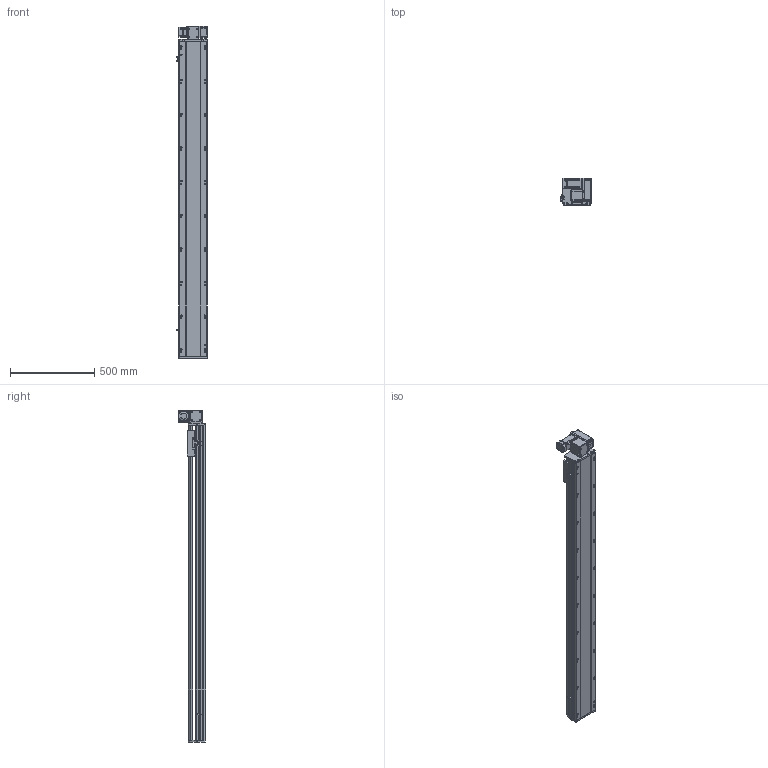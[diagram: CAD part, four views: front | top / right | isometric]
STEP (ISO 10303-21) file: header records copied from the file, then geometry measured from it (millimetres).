
FILE_DESCRIPTION (( 'STEP AP214' ), '1' );
FILE_NAME ('RTB17S-XX-1600-RW-M40-C4.STEP', '2025-12-11T09:04:30', ( '' ), ( '' ), 'SwSTEP 2.0', 'SolidWorks 2018', '' );
FILE_SCHEMA (( 'AUTOMOTIVE_DESIGN' ));
Length unit declared in the file: millimetre
Products named in the file (14): RMP17S-L-014-T20--々湍釱^RTB17S-RW-々湍釱蚾饜-400W_RTB17S-XX-XX-RW-M40-C4; OMRON EE-SX672 传感器^RTB17S-XX-XX-RW-M40-C4; RTB17-R-011菁釱^RTB17S-XX-XX-RW-M40-C4; RTB17S-XX-1600-RW-M40-C4; RTB14-L-005P--轴承塑胶压盖^RTB17S-RW-皮带座装配-400W_RTB17S-XX-XX-RW-M40-C4; RTB17S-RW-々湍釱蚾饜-400W^RTB17S-XX-XX-RW-M40-C4; RTB14-L-008-M20--萇儂啣^RTB17S-RW-々湍釱蚾饜-400W_RTB17S-XX-XX-RW-M40-C4; RTB14-L-017P^RTB17S-RW-々湍釱蚾饜-400W_RTB17S-XX-XX-RW-M40-C4; RTB14-L-018P^RTB17S-RW-々湍釱蚾饜-400W_RTB17S-XX-XX-RW-M40-C4; RTH13-BL-012覜茼え俋离^RTB17S-XX-XX-RW-M40-C4; RTB17S-L-004佪裝蹟譫蟀諉釱^RTB17S-XX-XX-RW-M40-C4; RTB17S-L-001耜醱啣^RTB17S-XX-XX-RW-M40-C4; 400W侜督萇儂^RTB17S-XX-XX-RW-M40-C4; RTB17S-L-007奻裔^RTB17S-XX-XX-RW-M40-C4
Assembly tree (16 placements, depth 3):
  RTB17S-XX-1600-RW-M40-C4
    RTB17-R-011菁釱^RTB17S-XX-XX-RW-M40-C4
    RTB17S-L-007奻裔^RTB17S-XX-XX-RW-M40-C4
    OMRON EE-SX672 传感器^RTB17S-XX-XX-RW-M40-C4  x3
    RTB17S-L-001耜醱啣^RTB17S-XX-XX-RW-M40-C4
    400W侜督萇儂^RTB17S-XX-XX-RW-M40-C4
    RTB17S-L-004佪裝蹟譫蟀諉釱^RTB17S-XX-XX-RW-M40-C4
    RTH13-BL-012覜茼え俋离^RTB17S-XX-XX-RW-M40-C4
    RTB17S-RW-々湍釱蚾饜-400W^RTB17S-XX-XX-RW-M40-C4
      RMP17S-L-014-T20--々湍釱^RTB17S-RW-々湍釱蚾饜-400W_RTB17S-XX-XX-RW-M40-C4
      RTB14-L-005P--轴承塑胶压盖^RTB17S-RW-皮带座装配-400W_RTB17S-XX-XX-RW-M40-C4
      RTB14-L-008-M20--萇儂啣^RTB17S-RW-々湍釱蚾饜-400W_RTB17S-XX-XX-RW-M40-C4
      RTB14-L-017P^RTB17S-RW-々湍釱蚾饜-400W_RTB17S-XX-XX-RW-M40-C4  x2
      RTB14-L-018P^RTB17S-RW-々湍釱蚾饜-400W_RTB17S-XX-XX-RW-M40-C4
Bounding box: 183.5 x 160.5 x 1972.5 mm (x, y, z)
Volume: 17269930.2 mm3; surface area: 2030740.4 mm2
Topology: 15 solids, 15 shells, 2253 faces, 6249 edges, 4077 vertices
Faces by surface type: plane 1074, cylinder 731, bspline 301, cone 139, torus 8
Entity records: 64937 total; most frequent: CARTESIAN_POINT 18254, ORIENTED_EDGE 9342, DIRECTION 8666, EDGE_CURVE 4671, VERTEX_POINT 3065, AXIS2_PLACEMENT_3D 2995, LINE 2676, VECTOR 2676
